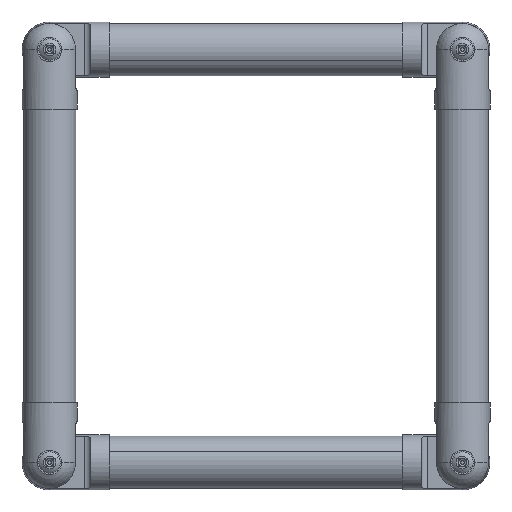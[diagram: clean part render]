
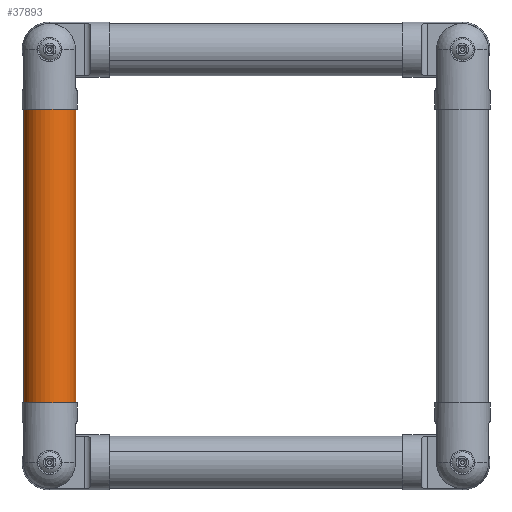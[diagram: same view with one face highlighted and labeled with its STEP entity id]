
A CAD part, front view. The second image highlights one B-rep face of the part: STEP entity #37893.
In plain terms, the highlighted cylindrical face has radius 13.716 mm (diameter 27.432 mm), a partial arc.
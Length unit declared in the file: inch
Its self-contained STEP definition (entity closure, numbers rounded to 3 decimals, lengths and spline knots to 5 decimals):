
#327 = DIRECTION ( 'NONE',  ( 0., 0., 1. ) ) ;
#2075 = CARTESIAN_POINT ( 'NONE',  ( -4.74732, -4.26892, -3. ) ) ;
#2503 = VERTEX_POINT ( 'NONE', #2075 ) ;
#5051 = DIRECTION ( 'NONE',  ( -0.984, -0.179, 0. ) ) ;
#5168 = CARTESIAN_POINT ( 'NONE',  ( -3.68468, -4.07608, 3. ) ) ;
#6075 = CARTESIAN_POINT ( 'NONE',  ( -4.216, -4.1725, 3. ) ) ;
#9237 = CARTESIAN_POINT ( 'NONE',  ( -4.74732, -4.26892, 3. ) ) ;
#11174 = CIRCLE ( 'NONE', #62390, 0.54 ) ;
#13418 = AXIS2_PLACEMENT_3D ( 'NONE', #6075, #327, #69021 ) ;
#15518 = EDGE_LOOP ( 'NONE', ( #74439, #49290, #18258, #33973 ) ) ;
#16957 = VERTEX_POINT ( 'NONE', #36904 ) ;
#17315 = EDGE_CURVE ( 'NONE', #2503, #34290, #31280, .T. ) ;
#18258 = ORIENTED_EDGE ( 'NONE', *, *, #67450, .F. ) ;
#20137 = CYLINDRICAL_SURFACE ( 'NONE', #13418, 0.54 ) ;
#24964 = DIRECTION ( 'NONE',  ( 0., 0., 1. ) ) ;
#24975 = LINE ( 'NONE', #5168, #57213 ) ;
#31280 = LINE ( 'NONE', #9237, #73482 ) ;
#31853 = CIRCLE ( 'NONE', #62199, 0.54 ) ;
#33973 = ORIENTED_EDGE ( 'NONE', *, *, #17315, .F. ) ;
#34290 = VERTEX_POINT ( 'NONE', #54451 ) ;
#36904 = CARTESIAN_POINT ( 'NONE',  ( -3.68468, -4.07608, -3. ) ) ;
#37513 = EDGE_CURVE ( 'NONE', #2503, #16957, #11174, .T. ) ;
#37893 = ADVANCED_FACE ( 'NONE', ( #65886 ), #20137, .T. ) ;
#39378 = DIRECTION ( 'NONE',  ( 0., 0., 1. ) ) ;
#39501 = VERTEX_POINT ( 'NONE', #57816 ) ;
#49290 = ORIENTED_EDGE ( 'NONE', *, *, #63198, .T. ) ;
#54451 = CARTESIAN_POINT ( 'NONE',  ( -4.74732, -4.26892, 3. ) ) ;
#55078 = DIRECTION ( 'NONE',  ( 0., 0., 1. ) ) ;
#57213 = VECTOR ( 'NONE', #62549, 39.37008 ) ;
#57816 = CARTESIAN_POINT ( 'NONE',  ( -3.68468, -4.07608, 3. ) ) ;
#59288 = CARTESIAN_POINT ( 'NONE',  ( -4.216, -4.1725, -3. ) ) ;
#62199 = AXIS2_PLACEMENT_3D ( 'NONE', #73791, #39378, #5051 ) ;
#62390 = AXIS2_PLACEMENT_3D ( 'NONE', #59288, #24964, #65098 ) ;
#62549 = DIRECTION ( 'NONE',  ( 0., 0., 1. ) ) ;
#63198 = EDGE_CURVE ( 'NONE', #16957, #39501, #24975, .T. ) ;
#65098 = DIRECTION ( 'NONE',  ( -0.984, -0.179, 0. ) ) ;
#65886 = FACE_OUTER_BOUND ( 'NONE', #15518, .T. ) ;
#67450 = EDGE_CURVE ( 'NONE', #34290, #39501, #31853, .T. ) ;
#69021 = DIRECTION ( 'NONE',  ( -0.984, -0.179, 0. ) ) ;
#73482 = VECTOR ( 'NONE', #55078, 39.37008 ) ;
#73791 = CARTESIAN_POINT ( 'NONE',  ( -4.216, -4.1725, 3. ) ) ;
#74439 = ORIENTED_EDGE ( 'NONE', *, *, #37513, .T. ) ;
